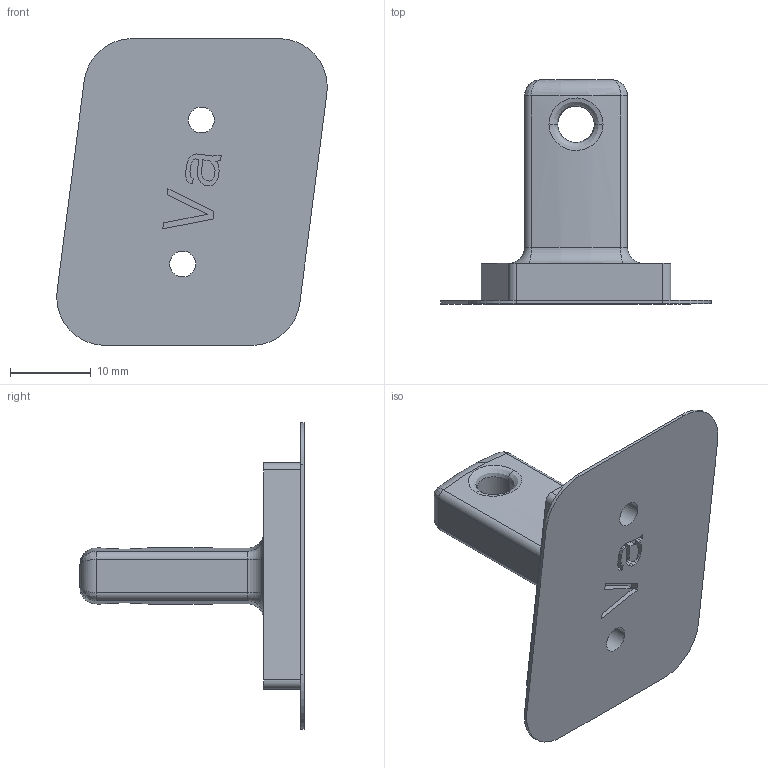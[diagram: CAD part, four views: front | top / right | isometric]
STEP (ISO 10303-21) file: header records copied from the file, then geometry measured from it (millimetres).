
FILE_DESCRIPTION((''),'2;1');
FILE_NAME('0000187324','2024-01-10T08:42:30',('Wyndorps'),(''),'CREO PARAMETRIC BY PTC INC, 2022484','CREO PARAMETRIC BY PTC INC, 2022484','');
FILE_SCHEMA(('CONFIG_CONTROL_DESIGN'));
Length unit declared in the file: millimetre
Products named in the file (1): 0000187324
Bounding box: 33.5 x 27.75 x 38 mm (x, y, z)
Volume: 4697.1 mm3; surface area: 3646 mm2
Topology: 1 solids, 1 shells, 120 faces, 311 edges, 198 vertices
Faces by surface type: plane 76, cylinder 24, bspline 8, torus 8, cone 4
Entity records: 4669 total; most frequent: CARTESIAN_POINT 1701, ORIENTED_EDGE 622, DIRECTION 579, EDGE_CURVE 311, VECTOR 235, LINE 235, VERTEX_POINT 198, AXIS2_PLACEMENT_3D 172
